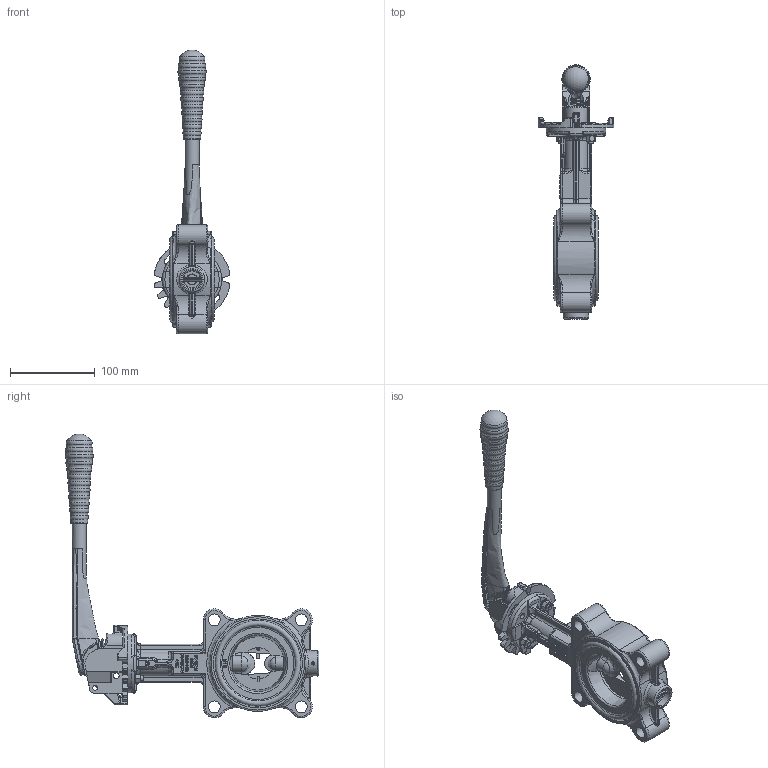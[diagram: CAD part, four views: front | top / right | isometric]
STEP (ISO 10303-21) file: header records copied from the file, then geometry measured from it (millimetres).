
FILE_DESCRIPTION((''),'2;1');
FILE_NAME('K:\Inventor\1 Artikel\10) Absperrklappen\10a) manuell\ABO Valve\894-GGG, 994T\894-GGG, DN65\894-GGG, DN65, 3D\894-GGG, DN65, PN10-16, HH, 3D.stp','2019-08-13T11:29:20',('claudia'),(''),'Autodesk Inventor 2013','Autodesk Inventor 2013','');
FILE_SCHEMA(('AUTOMOTIVE_DESIGN { 1 0 10303 214 1 1 1 1 }'));
Length unit declared in the file: millimetre
Products named in the file (1): Bauteil9
Bounding box: 89.17 x 299.25 x 334.43 mm (x, y, z)
Surface area: 160575.6 mm2
Topology: 10 solids, 11 shells, 2053 faces, 5433 edges, 3437 vertices
Faces by surface type: plane 745, bspline 683, cylinder 340, torus 177, cone 89, sphere 19
Full cylindrical faces by diameter (mm): 3.85 x1, 4 x2, 4.2 x1, 5 x2, 5.5 x2, 6 x4, 6.3 x2, 6.4 x2, 6.5 x2, 7 x4, 8.9 x2, 9.5 x1, 11.3 x2, 12 x5, 12.5 x1, 12.75 x2, 14 x4, 16 x4, 16.05 x1, 16.5 x2, 19 x1, 19.8 x1, 20 x1, 20.5 x1, 22 x2, 22.5 x1, 25 x1, 30 x1, 36 x1, 70 x1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
Entity records: 92323 total; most frequent: CARTESIAN_POINT 47016, ORIENTED_EDGE 10350, DIRECTION 7207, EDGE_CURVE 5177, VERTEX_POINT 3369, AXIS2_PLACEMENT_3D 2514, EDGE_LOOP 2327, VECTOR 2179
